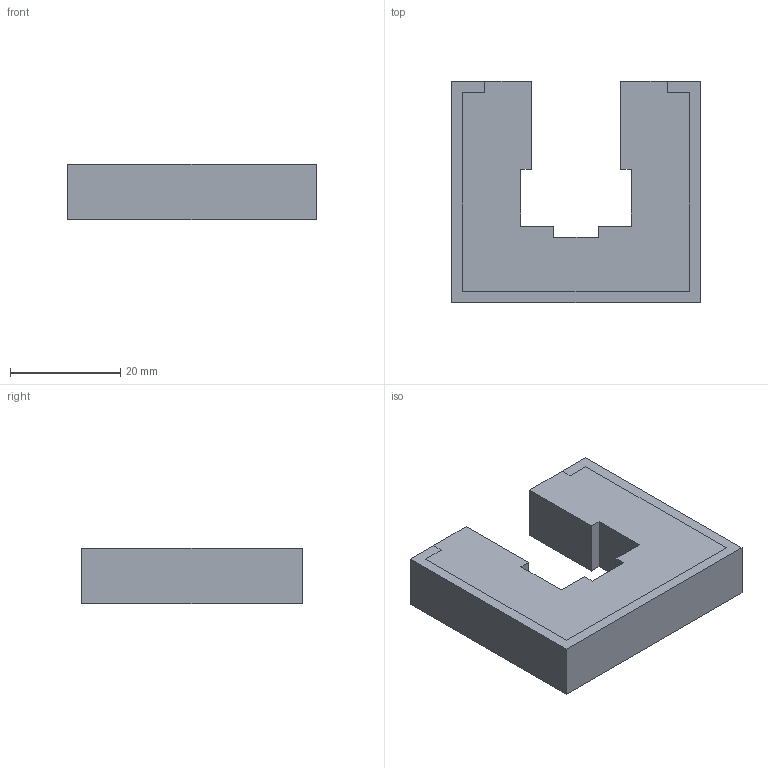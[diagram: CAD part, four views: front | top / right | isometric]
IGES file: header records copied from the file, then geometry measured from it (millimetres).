
Start section: SolidWorks IGES file using analytic representation for surfaces
Global section: file name: C:\Documents and Settings\ARGE\Desktop\yeni katalog tolgay düzenli\E kataloðu\ALPOLEN CCZ MODEL ÇELÝK PROFÝLLÝ ZÝNCÝR KIZAKLARI\207 CCZ 101.IGS; native system: SolidWorks 2006 by SolidWorks Corporation; preprocessor: SolidWorks 2006 by SolidWorks Corporation; author: ARGE2; date: 060913.095221; units: millimetre
Bounding box: 45 x 40 x 10 mm (x, y, z)
Surface area: 7480.7 mm2 (no closed solid volume)
Topology: 0 solids, 0 shells, 36 faces, 192 edges, 192 vertices
Faces by surface type: bspline 36
